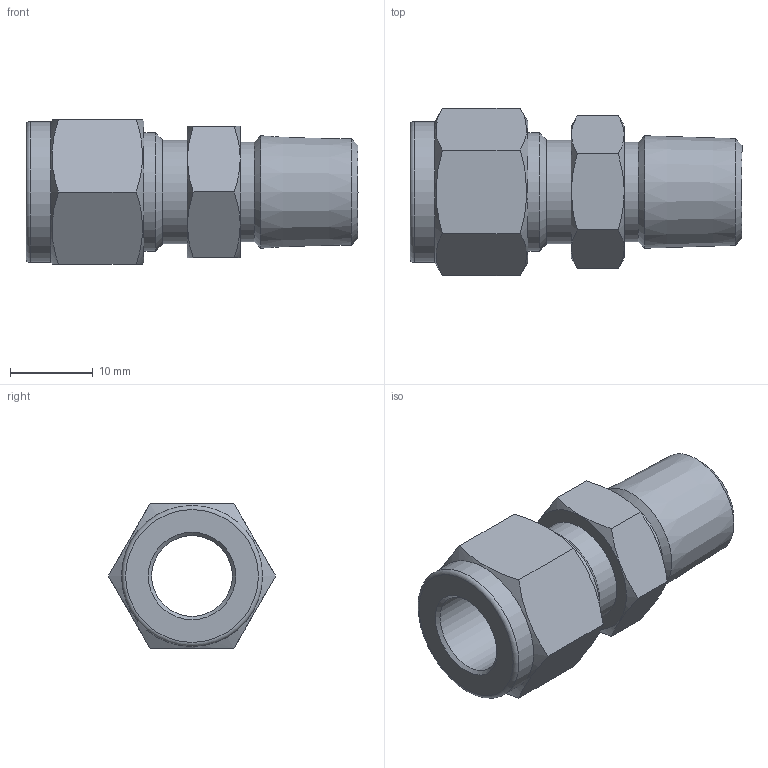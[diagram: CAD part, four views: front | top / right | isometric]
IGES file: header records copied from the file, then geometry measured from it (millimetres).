
Global section: file name: No Iges File Name specified; native system: Autodesk Inventor 2012; preprocessor: AutoDesk Inventor Iges Exporter R2012; author: 硅己绕,,1; organization: 1; date: 20150603.093033; units: millimetre
Bounding box: 40.01 x 20.16 x 17.46 mm (x, y, z)
Volume: 4619.7 mm3; surface area: 3694.9 mm2
Topology: 1 solids, 1 shells, 38 faces, 80 edges, 48 vertices
Faces by surface type: plane 18, cone 13, cylinder 4, revolution 2, torus 1
Full cylindrical faces by diameter (mm): 11.989 x1, 12.5 x1, 14.28 x1, 17 x1
